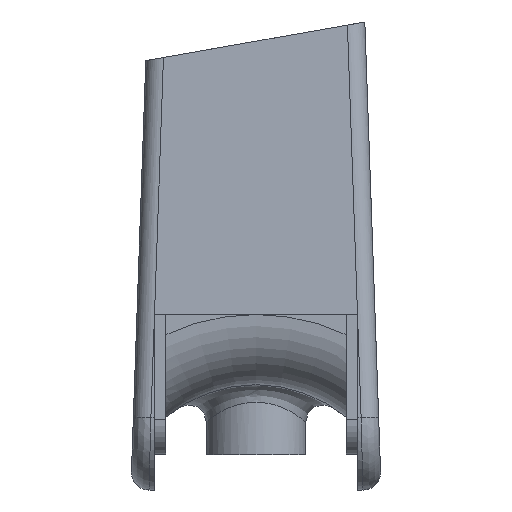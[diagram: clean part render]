
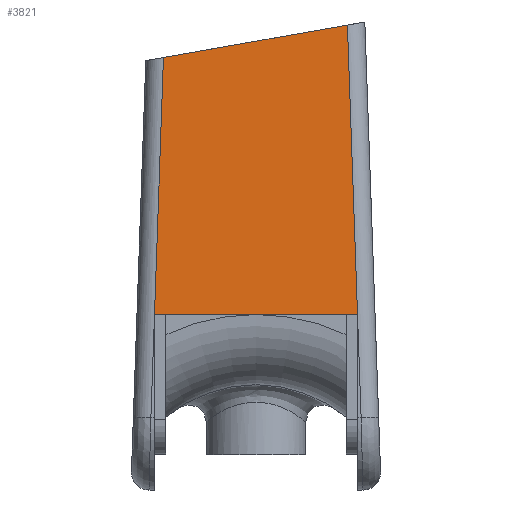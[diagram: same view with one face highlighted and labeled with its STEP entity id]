
A CAD part, left-side view. The second image highlights one B-rep face of the part: STEP entity #3821.
In plain terms, the highlighted planar face has unit normal (-0.999, 0, 0.035).
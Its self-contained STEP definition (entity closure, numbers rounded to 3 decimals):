
#344 = CARTESIAN_POINT ( 'NONE',  ( -69.476, -8.677, 18. ) ) ;
#620 = LINE ( 'NONE', #3054, #1082 ) ;
#654 = ORIENTED_EDGE ( 'NONE', *, *, #2242, .T. ) ;
#710 = DIRECTION ( 'NONE',  ( 0.035, 0.035, 0.999 ) ) ;
#740 = EDGE_LOOP ( 'NONE', ( #3812, #654, #1763, #3778 ) ) ;
#801 = DIRECTION ( 'NONE',  ( -0.999, 0., 0.035 ) ) ;
#915 = DIRECTION ( 'NONE',  ( -0.035, 0.035, -0.999 ) ) ;
#1008 = LINE ( 'NONE', #2835, #3385 ) ;
#1066 = DIRECTION ( 'NONE',  ( 0., -1., 0. ) ) ;
#1074 = DIRECTION ( 'NONE',  ( 0.035, 0., 0.999 ) ) ;
#1082 = VECTOR ( 'NONE', #915, 1000. ) ;
#1112 = VERTEX_POINT ( 'NONE', #344 ) ;
#1669 = EDGE_CURVE ( 'NONE', #3937, #1112, #2593, .T. ) ;
#1743 = VERTEX_POINT ( 'NONE', #1752 ) ;
#1752 = CARTESIAN_POINT ( 'NONE',  ( -68.709, 7.91, 39.965 ) ) ;
#1763 = ORIENTED_EDGE ( 'NONE', *, *, #1669, .T. ) ;
#1816 = CARTESIAN_POINT ( 'NONE',  ( -68.701, 6.568, 40.202 ) ) ;
#1970 = CARTESIAN_POINT ( 'NONE',  ( -70., 0., 3. ) ) ;
#2099 = LINE ( 'NONE', #1816, #2966 ) ;
#2242 = EDGE_CURVE ( 'NONE', #1743, #3937, #620, .T. ) ;
#2277 = PLANE ( 'NONE',  #3253 ) ;
#2593 = LINE ( 'NONE', #3838, #3728 ) ;
#2681 = FACE_OUTER_BOUND ( 'NONE', #740, .T. ) ;
#2693 = EDGE_CURVE ( 'NONE', #1743, #2938, #2099, .T. ) ;
#2835 = CARTESIAN_POINT ( 'NONE',  ( -69.989, -9.19, 3.321 ) ) ;
#2938 = VERTEX_POINT ( 'NONE', #3241 ) ;
#2966 = VECTOR ( 'NONE', #3404, 1000. ) ;
#3029 = CARTESIAN_POINT ( 'NONE',  ( -69.476, 8.677, 18. ) ) ;
#3054 = CARTESIAN_POINT ( 'NONE',  ( -69.989, 9.19, 3.321 ) ) ;
#3241 = CARTESIAN_POINT ( 'NONE',  ( -68.612, -7.813, 42.737 ) ) ;
#3253 = AXIS2_PLACEMENT_3D ( 'NONE', #1970, #801, #1074 ) ;
#3385 = VECTOR ( 'NONE', #710, 1000. ) ;
#3404 = DIRECTION ( 'NONE',  ( 0.006, -0.985, 0.174 ) ) ;
#3557 = EDGE_CURVE ( 'NONE', #1112, #2938, #1008, .T. ) ;
#3728 = VECTOR ( 'NONE', #1066, 1000. ) ;
#3778 = ORIENTED_EDGE ( 'NONE', *, *, #3557, .T. ) ;
#3812 = ORIENTED_EDGE ( 'NONE', *, *, #2693, .F. ) ;
#3821 = ADVANCED_FACE ( 'NONE', ( #2681 ), #2277, .T. ) ;
#3838 = CARTESIAN_POINT ( 'NONE',  ( -69.476, -8.7, 18. ) ) ;
#3937 = VERTEX_POINT ( 'NONE', #3029 ) ;
